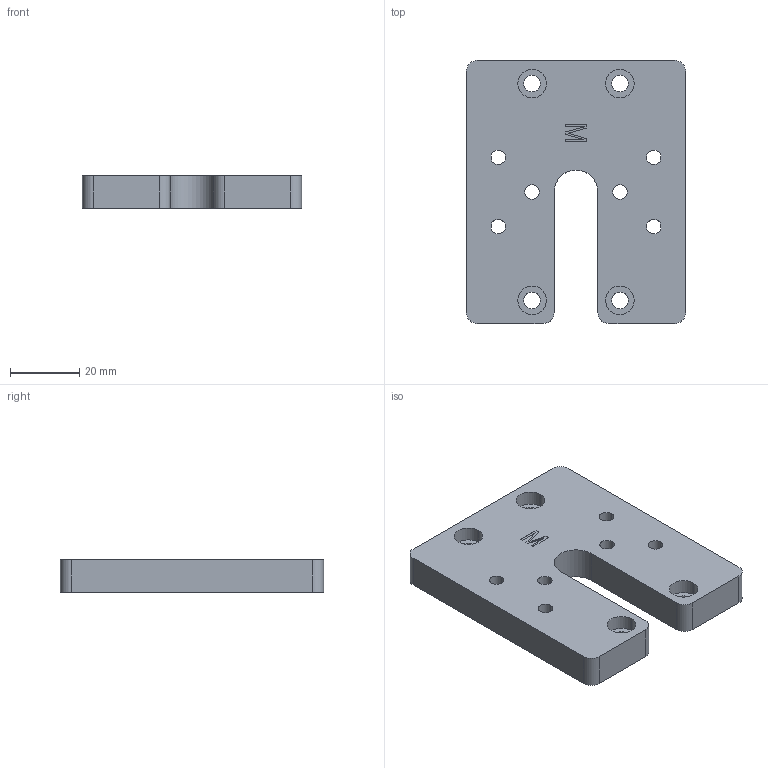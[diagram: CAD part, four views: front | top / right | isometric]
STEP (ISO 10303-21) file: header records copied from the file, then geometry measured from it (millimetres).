
FILE_DESCRIPTION (( 'STEP AP203' ), '1' );
FILE_NAME ('SLM-591-M-QX-HAWK.STEP', '2018-08-24T13:09:33', ( 'admin' ), ( '' ), 'SwSTEP 2.0', 'SolidWorks 2018', '' );
FILE_SCHEMA (( 'CONFIG_CONTROL_DESIGN' ));
Length unit declared in the file: inch
Products named in the file (1): SLM-591-M-QX-HAWK
Bounding box: 63.5 x 76.2 x 9.53 mm (x, y, z)
Volume: 38676.8 mm3; surface area: 13137.5 mm2
Topology: 1 solids, 1 shells, 64 faces, 171 edges, 114 vertices
Faces by surface type: cylinder 35, plane 28, bspline 1
Entity records: 2178 total; most frequent: CARTESIAN_POINT 391, DIRECTION 367, ORIENTED_EDGE 342, EDGE_CURVE 171, AXIS2_PLACEMENT_3D 134, VERTEX_POINT 114, VECTOR 99, LINE 99
